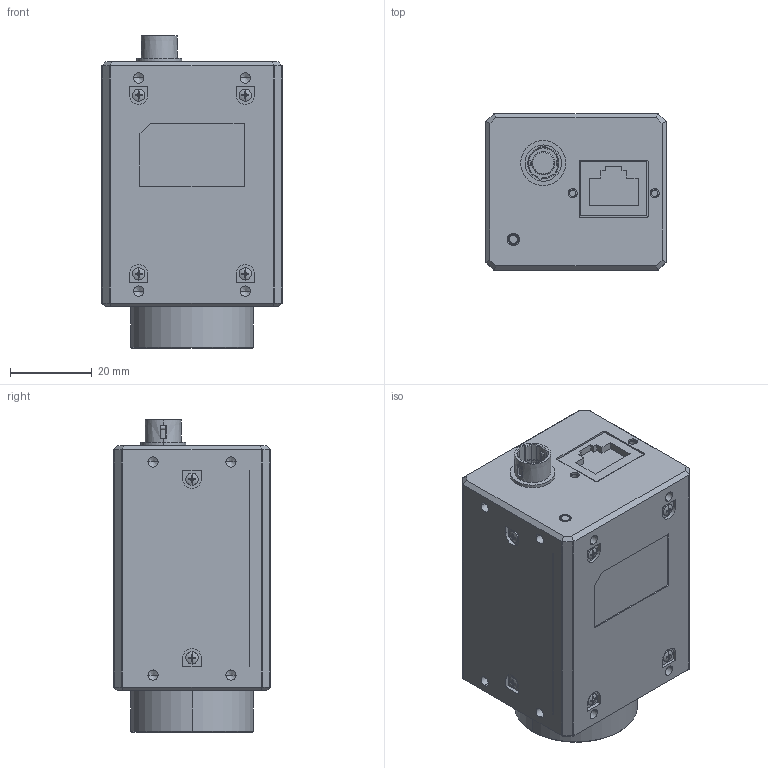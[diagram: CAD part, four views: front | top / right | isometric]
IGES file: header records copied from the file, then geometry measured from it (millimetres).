
Start section:  PTC IGES file: MV-CA013-70GM.igs
Global section: file name: MV-CA013-70GM.igs; native system: Creo Parametric by PTC Inc.; preprocessor: 2017260; author: wangyijun6; organization: Unknown; date: 20190817.153436; units: millimetre
Bounding box: 44 x 38.2 x 76.24 mm (x, y, z)
Volume: 98375.6 mm3; surface area: 27796.1 mm2
Topology: 1 solids, 24 shells, 1072 faces, 2888 edges, 1863 vertices
Faces by surface type: bspline 619, revolution 453
